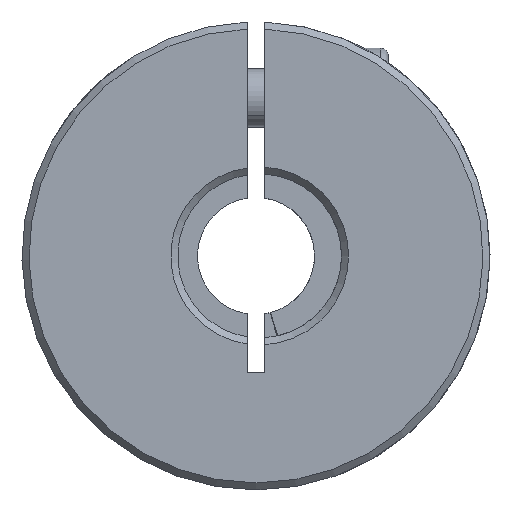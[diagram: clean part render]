
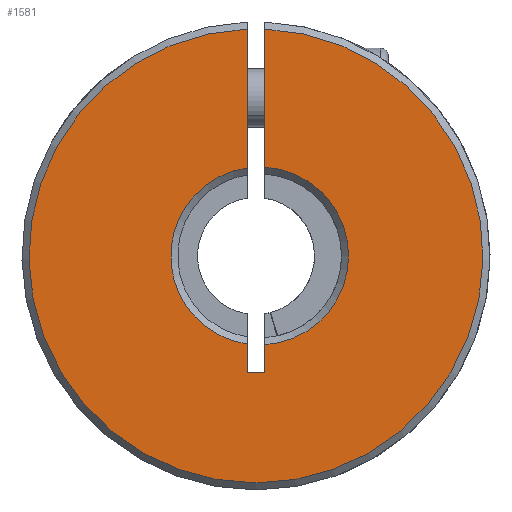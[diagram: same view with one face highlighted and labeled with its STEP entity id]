
A CAD part, front view. The second image highlights one B-rep face of the part: STEP entity #1581.
In plain terms, the highlighted planar face has unit normal (0, -1, 0).
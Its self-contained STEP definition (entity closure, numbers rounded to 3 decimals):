
#31 = CIRCLE ( 'NONE', #2874, 19.4 ) ;
#67 = DIRECTION ( 'NONE',  ( 0., 1., 0. ) ) ;
#80 = DIRECTION ( 'NONE',  ( 0., 0., 1. ) ) ;
#149 = ORIENTED_EDGE ( 'NONE', *, *, #3432, .T. ) ;
#223 = LINE ( 'NONE', #4972, #2099 ) ;
#326 = LINE ( 'NONE', #1227, #4447 ) ;
#360 = EDGE_CURVE ( 'NONE', #956, #2801, #326, .T. ) ;
#385 = AXIS2_PLACEMENT_3D ( 'NONE', #1005, #2403, #80 ) ;
#536 = PLANE ( 'NONE',  #2188 ) ;
#557 = EDGE_CURVE ( 'NONE', #954, #956, #5752, .T. ) ;
#954 = VERTEX_POINT ( 'NONE', #4566 ) ;
#955 = EDGE_CURVE ( 'NONE', #2397, #3488, #5964, .T. ) ;
#956 = VERTEX_POINT ( 'NONE', #5575 ) ;
#1005 = CARTESIAN_POINT ( 'NONE',  ( 0.314, -30., 0. ) ) ;
#1031 = DIRECTION ( 'NONE',  ( 0., 0., 1. ) ) ;
#1194 = DIRECTION ( 'NONE',  ( 0., 0., 1. ) ) ;
#1227 = CARTESIAN_POINT ( 'NONE',  ( -0.75, -30., -10. ) ) ;
#1280 = EDGE_LOOP ( 'NONE', ( #5599, #1882, #1991, #5748, #149, #6016, #4746, #4781 ) ) ;
#1298 = CARTESIAN_POINT ( 'NONE',  ( 0.75, -30., 7.587 ) ) ;
#1359 = VECTOR ( 'NONE', #3903, 1000. ) ;
#1376 = CARTESIAN_POINT ( 'NONE',  ( -0.75, -30., -10. ) ) ;
#1581 = ADVANCED_FACE ( 'NONE', ( #5184 ), #536, .F. ) ;
#1756 = CIRCLE ( 'NONE', #385, 7.6 ) ;
#1758 = CARTESIAN_POINT ( 'NONE',  ( -0.75, -30., 7.525 ) ) ;
#1779 = EDGE_CURVE ( 'NONE', #5388, #1805, #1802, .T. ) ;
#1802 = CIRCLE ( 'NONE', #4341, 7.6 ) ;
#1805 = VERTEX_POINT ( 'NONE', #1758 ) ;
#1865 = VERTEX_POINT ( 'NONE', #3247 ) ;
#1882 = ORIENTED_EDGE ( 'NONE', *, *, #2480, .T. ) ;
#1991 = ORIENTED_EDGE ( 'NONE', *, *, #557, .T. ) ;
#2099 = VECTOR ( 'NONE', #4442, 1000. ) ;
#2188 = AXIS2_PLACEMENT_3D ( 'NONE', #3901, #67, #1031 ) ;
#2397 = VERTEX_POINT ( 'NONE', #4236 ) ;
#2403 = DIRECTION ( 'NONE',  ( 0., 1., 0. ) ) ;
#2480 = EDGE_CURVE ( 'NONE', #3488, #954, #1756, .T. ) ;
#2785 = VECTOR ( 'NONE', #5368, 1000. ) ;
#2801 = VERTEX_POINT ( 'NONE', #1376 ) ;
#2874 = AXIS2_PLACEMENT_3D ( 'NONE', #5510, #4220, #5048 ) ;
#2939 = EDGE_CURVE ( 'NONE', #1805, #1865, #4772, .T. ) ;
#3131 = DIRECTION ( 'NONE',  ( 0., 1., 0. ) ) ;
#3247 = CARTESIAN_POINT ( 'NONE',  ( -0.75, -30., 19.385 ) ) ;
#3432 = EDGE_CURVE ( 'NONE', #2801, #5388, #223, .T. ) ;
#3488 = VERTEX_POINT ( 'NONE', #1298 ) ;
#3901 = CARTESIAN_POINT ( 'NONE',  ( 0., -30., 0. ) ) ;
#3903 = DIRECTION ( 'NONE',  ( 0., 0., 1. ) ) ;
#3926 = EDGE_CURVE ( 'NONE', #1865, #2397, #31, .T. ) ;
#4046 = VECTOR ( 'NONE', #4233, 1000. ) ;
#4220 = DIRECTION ( 'NONE',  ( 0., -1., 0. ) ) ;
#4233 = DIRECTION ( 'NONE',  ( 0., 0., -1. ) ) ;
#4236 = CARTESIAN_POINT ( 'NONE',  ( 0.75, -30., 19.385 ) ) ;
#4254 = CARTESIAN_POINT ( 'NONE',  ( -0.75, -30., -7.525 ) ) ;
#4341 = AXIS2_PLACEMENT_3D ( 'NONE', #5927, #3131, #1194 ) ;
#4442 = DIRECTION ( 'NONE',  ( 0., 0., 1. ) ) ;
#4447 = VECTOR ( 'NONE', #5825, 1000. ) ;
#4566 = CARTESIAN_POINT ( 'NONE',  ( 0.75, -30., -7.587 ) ) ;
#4746 = ORIENTED_EDGE ( 'NONE', *, *, #2939, .T. ) ;
#4772 = LINE ( 'NONE', #5187, #1359 ) ;
#4781 = ORIENTED_EDGE ( 'NONE', *, *, #3926, .T. ) ;
#4823 = CARTESIAN_POINT ( 'NONE',  ( 0.75, -30., -10. ) ) ;
#4972 = CARTESIAN_POINT ( 'NONE',  ( -0.75, -30., -10. ) ) ;
#5048 = DIRECTION ( 'NONE',  ( 0., 0., 1. ) ) ;
#5184 = FACE_OUTER_BOUND ( 'NONE', #1280, .T. ) ;
#5187 = CARTESIAN_POINT ( 'NONE',  ( -0.75, -30., -10. ) ) ;
#5362 = CARTESIAN_POINT ( 'NONE',  ( 0.75, -30., -10. ) ) ;
#5368 = DIRECTION ( 'NONE',  ( 0., 0., -1. ) ) ;
#5388 = VERTEX_POINT ( 'NONE', #4254 ) ;
#5510 = CARTESIAN_POINT ( 'NONE',  ( 0., -30., 0. ) ) ;
#5575 = CARTESIAN_POINT ( 'NONE',  ( 0.75, -30., -10. ) ) ;
#5599 = ORIENTED_EDGE ( 'NONE', *, *, #955, .T. ) ;
#5748 = ORIENTED_EDGE ( 'NONE', *, *, #360, .T. ) ;
#5752 = LINE ( 'NONE', #4823, #2785 ) ;
#5825 = DIRECTION ( 'NONE',  ( -1., 0., 0. ) ) ;
#5927 = CARTESIAN_POINT ( 'NONE',  ( 0.314, -30., 0. ) ) ;
#5964 = LINE ( 'NONE', #5362, #4046 ) ;
#6016 = ORIENTED_EDGE ( 'NONE', *, *, #1779, .T. ) ;
